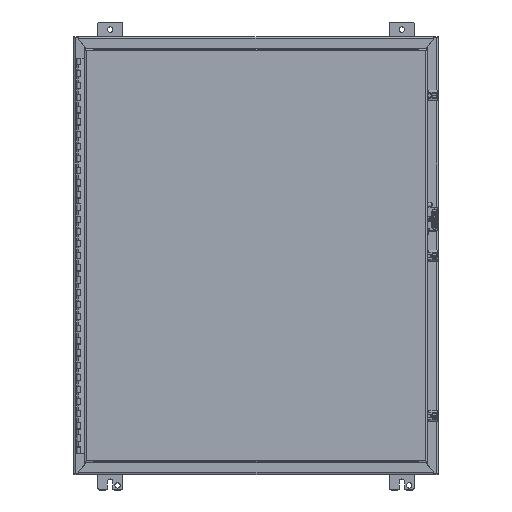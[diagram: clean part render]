
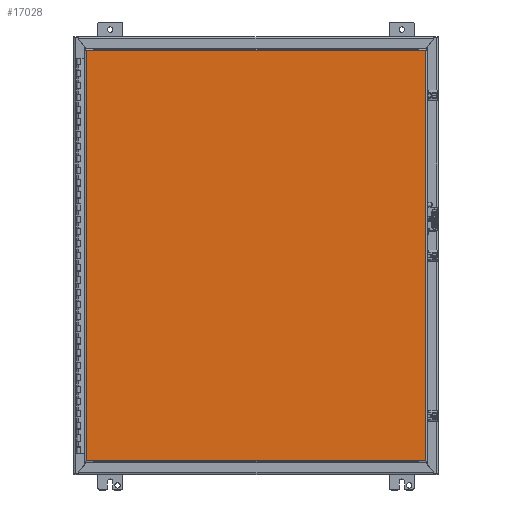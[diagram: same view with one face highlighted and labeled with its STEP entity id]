
A CAD part, top view. The second image highlights one B-rep face of the part: STEP entity #17028.
In plain terms, the highlighted planar face has unit normal (0, 0, 1) as drawn and (0, 1, 0) by its records, which use the part's own axes.
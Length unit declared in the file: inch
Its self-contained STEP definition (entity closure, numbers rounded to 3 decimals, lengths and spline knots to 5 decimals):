
#15443=DIRECTION('',(0.,0.,1.));
#15444=VECTOR('',#15443,27.96);
#15445=CARTESIAN_POINT('',(-16.88638,0.,0.145));
#15446=LINE('',#15445,#15444);
#15495=DIRECTION('',(0.,0.,1.));
#15496=VECTOR('',#15495,27.96);
#15497=CARTESIAN_POINT('',(16.88638,0.,0.145));
#15498=LINE('',#15497,#15496);
#15599=DIRECTION('',(-1.,0.,0.));
#15600=VECTOR('',#15599,33.77275);
#15601=CARTESIAN_POINT('',(16.88638,0.,0.145));
#15602=LINE('',#15601,#15600);
#16095=DIRECTION('',(-1.,0.,0.));
#16096=VECTOR('',#16095,33.77275);
#16097=CARTESIAN_POINT('',(16.88638,0.,28.105));
#16098=LINE('',#16097,#16096);
#16379=CARTESIAN_POINT('',(16.88638,0.,0.145));
#16380=CARTESIAN_POINT('',(-16.88638,0.,0.145));
#16381=VERTEX_POINT('',#16379);
#16382=VERTEX_POINT('',#16380);
#16383=CARTESIAN_POINT('',(16.88638,0.,28.105));
#16384=CARTESIAN_POINT('',(-16.88638,0.,28.105));
#16385=VERTEX_POINT('',#16383);
#16386=VERTEX_POINT('',#16384);
#17014=CARTESIAN_POINT('',(17.03138,0.,0.));
#17015=DIRECTION('',(0.,1.,0.));
#17016=DIRECTION('',(-1.,0.,0.));
#17017=AXIS2_PLACEMENT_3D('',#17014,#17015,#17016);
#17018=PLANE('',#17017);
#17020=ORIENTED_EDGE('',*,*,#17019,.T.);
#17022=ORIENTED_EDGE('',*,*,#17021,.T.);
#17023=ORIENTED_EDGE('',*,*,#17004,.F.);
#17025=ORIENTED_EDGE('',*,*,#17024,.F.);
#17026=EDGE_LOOP('',(#17020,#17022,#17023,#17025));
#17027=FACE_OUTER_BOUND('',#17026,.F.);
#17004=EDGE_CURVE('',#16382,#16386,#15446,.T.);
#17019=EDGE_CURVE('',#16381,#16385,#15498,.T.);
#17021=EDGE_CURVE('',#16385,#16386,#16098,.T.);
#17024=EDGE_CURVE('',#16381,#16382,#15602,.T.);
#17028=ADVANCED_FACE('',(#17027),#17018,.T.);
